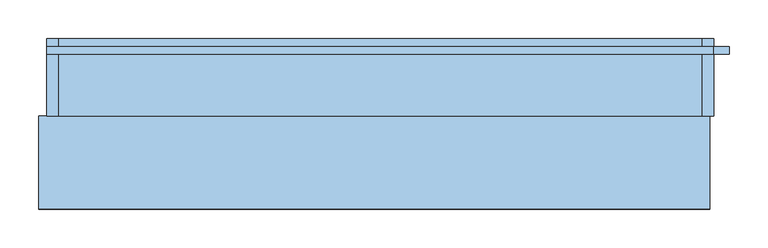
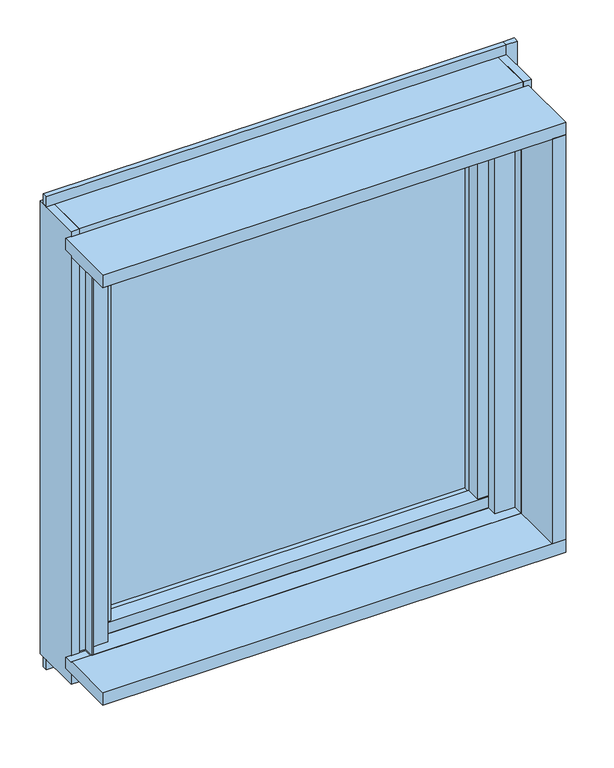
"""IFC4 building model written with IfcOpenShell, lengths in millimetres: window geometry, FNSⅡ100R_非防火_面付枠_単窓 : 隠蔽突出排煙."""

from ifc_helpers import new_model, si_unit, frame, origin, place, context, project, spatial, polyline, outline, extrude, faceted_brep, source, transform, mapped, element, save


def window_178d841d(model_context):
    return source(origin(), model_context, "Body", "SolidModel", [
        extrude(outline(polyline([(-343.0, 80.0), (343.0, 80.0), (343.0, 74.0), (-343.0, 74.0), (-343.0, 80.0)])), frame((0.0, 0.0, 919.0), z_axis=(0.0, 0.0, 1.0), x_axis=(1.0, 0.0, 0.0)), (0.0, 0.0, 1.0), 735.0),
        extrude(outline(polyline([(-343.0, 98.0), (343.0, 98.0), (343.0, 92.0), (-343.0, 92.0), (-343.0, 98.0)])), frame((0.0, 0.0, 919.0), z_axis=(0.0, 0.0, 1.0), x_axis=(1.0, 0.0, 0.0)), (0.0, 0.0, 1.0), 735.0),
        faceted_brep([(-400.0, 105.5, 1700.0), (-374.5, 105.5, 1700.0), (-374.5, 100.0, 1700.0), (-362.2, 100.0, 1700.0), (-362.2, 110.0, 1700.0), (-400.0, 110.0, 1700.0), (-400.0, 105.5, 869.0), (-400.0, 110.0, 869.0), (-362.2, 110.0, 869.0), (-362.2, 38.0, 869.0), (-374.5, 38.0, 869.0), (-374.5, 105.5, 869.0), (-374.5, 38.0, 1684.0), (-374.5, 100.0, 1684.0), (-362.2, 110.0, 1654.0), (-343.0, 110.0, 1654.0), (-343.0, 110.0, 919.0), (-362.2, 110.0, 919.0), (-362.2, 38.0, 1684.0), (-362.2, 61.0, 919.0), (-362.2, 61.0, 1654.0), (-362.2, 100.0, 1684.0), (-343.0, 61.0, 1654.0), (-343.0, 61.0, 919.0)], [[[0, 1, 2, 3, 4, 5]], [[6, 7, 8, 9, 10, 11]], [[1, 0, 6, 11]], [[11, 10, 12, 13, 2, 1]], [[5, 4, 14, 15, 16, 17, 8, 7]], [[0, 5, 7, 6]], [[10, 9, 18, 12]], [[9, 8, 17, 19, 20, 14, 4, 3, 21, 18]], [[21, 13, 12, 18]], [[13, 21, 3, 2]], [[20, 22, 15, 14]], [[17, 16, 23, 19]], [[22, 20, 19, 23]], [[15, 22, 23, 16]]]),
        faceted_brep([(400.0, 105.5, 1700.0), (400.0, 110.0, 1700.0), (363.0, 110.0, 1700.0), (363.0, 100.0, 1700.0), (376.8, 100.0, 1700.0), (376.8, 105.5, 1700.0), (400.0, 105.5, 869.0), (376.8, 105.5, 869.0), (376.8, 38.0, 869.0), (363.0, 38.0, 869.0), (363.0, 110.0, 869.0), (400.0, 110.0, 869.0), (363.0, 110.0, 919.0), (343.0, 110.0, 919.0), (343.0, 110.0, 1654.0), (363.0, 110.0, 1654.0), (363.0, 38.0, 1684.0), (363.0, 100.0, 1684.0), (363.0, 61.0, 1654.0), (363.0, 61.0, 919.0), (376.8, 38.0, 1684.0), (376.8, 100.0, 1684.0), (343.0, 61.0, 1654.0), (343.0, 61.0, 919.0)], [[[0, 1, 2, 3, 4, 5]], [[6, 7, 8, 9, 10, 11]], [[1, 0, 6, 11]], [[2, 1, 11, 10, 12, 13, 14, 15]], [[10, 9, 16, 17, 3, 2, 15, 18, 19, 12]], [[9, 8, 20, 16]], [[8, 7, 5, 4, 21, 20]], [[0, 5, 7, 6]], [[21, 17, 16, 20]], [[17, 21, 4, 3]], [[15, 14, 22, 18]], [[19, 23, 13, 12]], [[22, 14, 13, 23]], [[18, 22, 23, 19]]]),
        extrude(outline(polyline([(-343.0, 32.5), (-362.2, 32.5), (-362.2, 61.0), (-343.0, 61.0), (-343.0, 32.5)])), frame((0.0, 0.0, 922.0), z_axis=(0.0, 0.0, 1.0), x_axis=(1.0, 0.0, 0.0)), (0.0, 0.0, 1.0), 729.0),
        extrude(outline(polyline([(343.0, 32.5), (343.0, 61.0), (363.0, 61.0), (363.0, 32.5), (343.0, 32.5)])), frame((0.0, 0.0, 922.0), z_axis=(0.0, 0.0, 1.0), x_axis=(1.0, 0.0, 0.0)), (0.0, 0.0, 1.0), 729.0),
        extrude(outline(polyline([(363.0, 61.0), (363.0, 30.0), (-362.2, 30.0), (-362.2, 61.0), (363.0, 61.0)])), frame((0.0, 0.0, 900.0), z_axis=(0.0, 0.0, 1.0), x_axis=(1.0, 0.0, 0.0)), (0.0, 0.0, 1.0), 22.0),
        extrude(outline(polyline([(110.0, 869.0), (38.0, 869.0), (38.0, 900.0), (61.0, 900.0), (61.0, 919.0), (110.0, 919.0), (110.0, 869.0)])), frame((-362.2, 0.0, 0.0), z_axis=(1.0, 0.0, 0.0), x_axis=(0.0, 1.0, 0.0)), (0.0, 0.0, 1.0), 725.2),
        extrude(outline(polyline([(110.0, 1700.0), (110.0, 1654.0), (61.0, 1654.0), (61.0, 1673.2), (38.0, 1673.2), (38.0, 1684.0), (100.0, 1684.0), (100.0, 1700.0), (110.0, 1700.0)])), frame((-362.2, 0.0, 0.0), z_axis=(1.0, 0.0, 0.0), x_axis=(0.0, 1.0, 0.0)), (0.0, 0.0, 1.0), 725.2),
        extrude(outline(polyline([(363.0, 61.0), (363.0, 30.0), (-362.2, 30.0), (-362.2, 61.0), (363.0, 61.0)])), frame((0.0, 0.0, 1651.0), z_axis=(0.0, 0.0, 1.0), x_axis=(1.0, 0.0, 0.0)), (0.0, 0.0, 1.0), 22.2),
        faceted_brep([(-368.0, 29.0, 1700.0), (-415.0, 29.0, 1700.0), (-415.0, 29.0, 850.0), (-368.0, 29.0, 850.0), (-400.0, 34.0, 1700.0), (-368.0, 34.0, 1700.0), (-368.0, 34.0, 850.0), (-400.0, 34.0, 850.0), (-430.0, 110.0, 1735.0), (-430.0, 10.0, 1735.0), (-415.0, 10.0, 1735.0), (-415.0, 110.0, 1735.0), (-430.0, 110.0, 840.0), (-415.0, 110.0, 840.0), (-415.0, 10.0, 840.0), (-430.0, 10.0, 840.0), (-415.0, 110.0, 850.0), (-415.0, 110.0, 1700.0), (-400.0, 110.0, 1700.0), (-400.0, 110.0, 850.0)], [[[0, 1, 2, 3]], [[4, 5, 6, 7]], [[8, 9, 10, 11]], [[12, 13, 14, 15]], [[9, 8, 12, 15]], [[10, 9, 15, 14]], [[11, 10, 14, 13, 16, 2, 1, 17]], [[8, 11, 17, 18, 19, 16, 13, 12]], [[18, 17, 1, 0, 5, 4]], [[19, 7, 6, 3, 2, 16]], [[18, 4, 7, 19]], [[5, 0, 3, 6]]]),
        faceted_brep([(415.0, 10.0, 1735.0), (430.0, 10.0, 1735.0), (430.0, 110.0, 1735.0), (415.0, 110.0, 1735.0), (415.0, 10.0, 840.0), (415.0, 110.0, 840.0), (430.0, 110.0, 840.0), (430.0, 10.0, 840.0), (415.0, 29.0, 1700.0), (368.0, 29.0, 1700.0), (368.0, 29.0, 850.0), (415.0, 29.0, 850.0), (400.0, 34.0, 1700.0), (400.0, 110.0, 1700.0), (400.0, 110.0, 850.0), (400.0, 34.0, 850.0), (368.0, 34.0, 1700.0), (415.0, 110.0, 1700.0), (415.0, 110.0, 850.0), (368.0, 34.0, 850.0)], [[[0, 1, 2, 3]], [[4, 5, 6, 7]], [[8, 9, 10, 11]], [[12, 13, 14, 15]], [[12, 16, 9, 8, 17, 13]], [[15, 14, 18, 11, 10, 19]], [[1, 0, 4, 7]], [[2, 1, 7, 6]], [[3, 2, 6, 5, 18, 14, 13, 17]], [[0, 3, 17, 8, 11, 18, 5, 4]], [[16, 12, 15, 19]], [[9, 16, 19, 10]]]),
        extrude(outline(polyline([(400.0, -10.0), (400.0, 10.0), (362.0, 10.0), (362.0, 29.0), (415.0, 29.0), (415.0, 10.0), (403.0, 10.0), (403.0, -10.0), (400.0, -10.0)])), frame((0.0, 0.0, 900.0), z_axis=(0.0, 0.0, 1.0), x_axis=(1.0, 0.0, 0.0)), (0.0, 0.0, 1.0), 803.0),
        extrude(outline(polyline([(-415.0, 10.0), (-415.0, 29.0), (-362.0, 29.0), (-362.0, 10.0), (-400.0, 10.0), (-400.0, -10.0), (-403.0, -10.0), (-403.0, 10.0), (-415.0, 10.0)])), frame((0.0, 0.0, 900.0), z_axis=(0.0, 0.0, 1.0), x_axis=(1.0, 0.0, 0.0)), (0.0, 0.0, 1.0), 803.0),
        extrude(outline(polyline([(10.0, 890.0), (10.0, 897.0), (-10.0, 897.0), (-10.0, 900.0), (29.0, 900.0), (29.0, 890.0), (10.0, 890.0)])), frame((-403.0, 0.0, 0.0), z_axis=(1.0, 0.0, 0.0), x_axis=(0.0, 1.0, 0.0)), (0.0, 0.0, 1.0), 806.0),
        extrude(outline(polyline([(110.0, 840.0), (10.0, 840.0), (10.0, 890.0), (34.0, 890.0), (34.0, 865.0), (99.0, 865.0), (99.0, 850.0), (110.0, 850.0), (110.0, 840.0)])), frame((-415.0, 0.0, 0.0), z_axis=(1.0, 0.0, 0.0), x_axis=(0.0, 1.0, 0.0)), (0.0, 0.0, 1.0), 830.0),
        extrude(outline(polyline([(29.0, 1673.0), (7.5, 1673.0), (7.5, 1700.0), (-10.0, 1700.0), (-10.0, 1703.0), (10.0, 1703.0), (10.0, 1712.5), (29.0, 1712.5), (29.0, 1673.0)])), frame((-400.0, 0.0, 0.0), z_axis=(1.0, 0.0, 0.0), x_axis=(0.0, 1.0, 0.0)), (0.0, 0.0, 1.0), 800.0),
        extrude(outline(polyline([(110.0, 1700.0), (34.0, 1700.0), (34.0, 1679.0), (29.0, 1679.0), (29.0, 1712.5), (10.0, 1712.5), (10.0, 1735.0), (110.0, 1735.0), (110.0, 1700.0)])), frame((-415.0, 0.0, 0.0), z_axis=(1.0, 0.0, 0.0), x_axis=(0.0, 1.0, 0.0)), (0.0, 0.0, 1.0), 830.0),
        extrude(outline(polyline([(400.0, -110.0), (400.0, -10.0), (403.0, -10.0), (403.0, 10.0), (425.0, 10.0), (425.0, -110.0), (400.0, -110.0)])), frame((0.0, 0.0, 900.0), z_axis=(0.0, 0.0, 1.0), x_axis=(1.0, 0.0, 0.0)), (0.0, 0.0, 1.0), 800.0),
        extrude(outline(polyline([(450.0, 90.0), (430.0, 90.0), (430.0, 100.0), (450.0, 100.0), (450.0, 90.0)])), frame((0.0, 0.0, 820.0), z_axis=(0.0, 0.0, 1.0), x_axis=(1.0, 0.0, 0.0)), (0.0, 0.0, 1.0), 935.0),
        extrude(outline(polyline([(-110.0, 900.0), (-10.0, 900.0), (-10.0, 897.0), (10.0, 897.0), (10.0, 875.0), (-110.0, 875.0), (-110.0, 900.0)])), frame((-440.0, 0.0, 0.0), z_axis=(1.0, 0.0, 0.0), x_axis=(0.0, 1.0, 0.0)), (0.0, 0.0, 1.0), 865.0),
        extrude(outline(polyline([(-430.0, 90.0), (-430.0, 100.0), (430.0, 100.0), (430.0, 90.0), (-430.0, 90.0)])), frame((0.0, 0.0, 820.0), z_axis=(0.0, 0.0, 1.0), x_axis=(1.0, 0.0, 0.0)), (0.0, 0.0, 1.0), 20.0),
        extrude(outline(polyline([(-110.0, 1725.0), (10.0, 1725.0), (10.0, 1703.0), (-10.0, 1703.0), (-10.0, 1700.0), (-110.0, 1700.0), (-110.0, 1725.0)])), frame((-440.0, 0.0, 0.0), z_axis=(1.0, 0.0, 0.0), x_axis=(0.0, 1.0, 0.0)), (0.0, 0.0, 1.0), 865.0),
        extrude(outline(polyline([(-430.0, 90.0), (-430.0, 100.0), (430.0, 100.0), (430.0, 90.0), (-430.0, 90.0)])), frame((0.0, 0.0, 1735.0), z_axis=(0.0, 0.0, 1.0), x_axis=(1.0, 0.0, 0.0)), (0.0, 0.0, 1.0), 20.0),
    ])


if __name__ == "__main__":
    model = new_model("IFC4")
    model_context = context("Model", 3, world=origin())
    ifc_project = project(units=[si_unit("LENGTHUNIT", "METRE", prefix="MILLI")], contexts=[model_context])
    site = spatial("IfcSite", under=ifc_project)
    building = spatial("IfcBuilding", under=site)
    placement = place(None, origin())
    window_shape = window_178d841d(model_context)
    element("IfcWindow", 1, ObjectType="FNSⅡ100R_非防火_面付枠_単窓 : 隠蔽突出排煙", at=placement, inside=building, context=model_context, shape_type="MappedRepresentation", body=[
        mapped(window_shape, transform((0.0, 0.0, 0.0), x_axis=(1.0, 0.0, 0.0), y_axis=(0.0, 1.0, 0.0), z_axis=(0.0, 0.0, 1.0))),
    ])
    save(model, "model.ifc")
